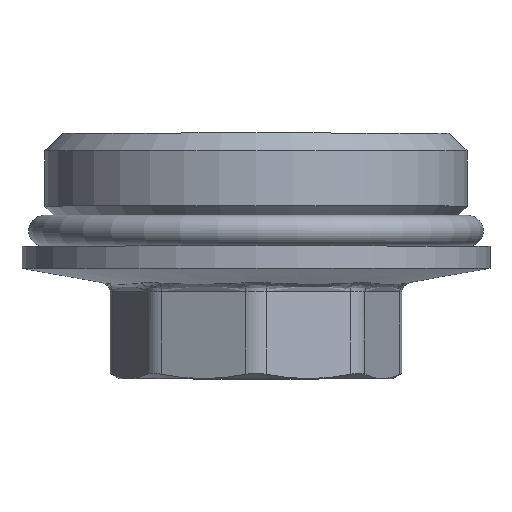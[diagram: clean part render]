
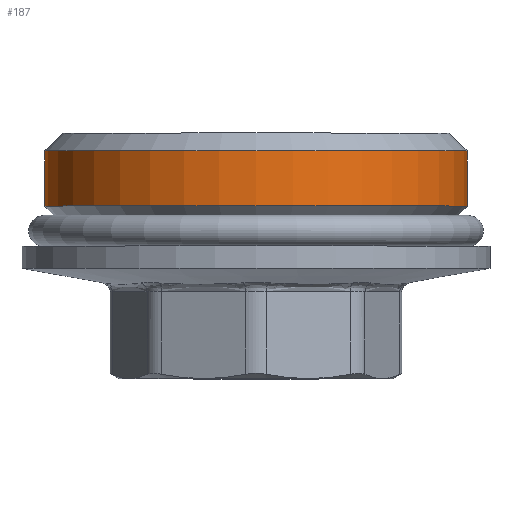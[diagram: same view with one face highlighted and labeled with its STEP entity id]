
A CAD part, top view. The second image highlights one B-rep face of the part: STEP entity #187.
In plain terms, the highlighted cylindrical face has radius 23.901 mm (diameter 47.803 mm), a full revolution.
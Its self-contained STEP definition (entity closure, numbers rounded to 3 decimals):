
#187=ADVANCED_FACE('',(#355,#357),#359,.T.);
#355=FACE_OUTER_BOUND('',#356,.T.);
#356=EDGE_LOOP('',(#1492));
#357=FACE_OUTER_BOUND('',#358,.T.);
#358=EDGE_LOOP('',(#1493));
#359=CYLINDRICAL_SURFACE('',#360,23.902);
#360=AXIS2_PLACEMENT_3D('',#361,#362,#363);
#361=CARTESIAN_POINT('',(0.,0.,0.));
#362=DIRECTION('',(0.,1.,0.));
#363=DIRECTION('',(-1.,0.,0.));
#1492=ORIENTED_EDGE('',*,*,#1687,.F.);
#1493=ORIENTED_EDGE('',*,*,#1691,.T.);
#1687=EDGE_CURVE('',#1796,#1796,#1797,.T.);
#1691=EDGE_CURVE('',#1804,#1804,#1805,.F.);
#1796=VERTEX_POINT('',#1986);
#1797=CIRCLE('',#1987,23.902);
#1804=VERTEX_POINT('',#2006);
#1805=CIRCLE('',#2007,23.902);
#1986=CARTESIAN_POINT('',(-23.902,13.3,0.));
#1987=AXIS2_PLACEMENT_3D('',#1988,#1989,#1990);
#1988=CARTESIAN_POINT('',(0.,13.3,0.));
#1989=DIRECTION('',(0.,1.,0.));
#1990=DIRECTION('',(-1.,0.,0.));
#2006=CARTESIAN_POINT('',(-23.902,7.052,0.));
#2007=AXIS2_PLACEMENT_3D('',#2008,#2009,#2010);
#2008=CARTESIAN_POINT('',(0.,7.052,0.));
#2009=DIRECTION('',(0.,-1.,0.));
#2010=DIRECTION('',(-1.,0.,0.));
